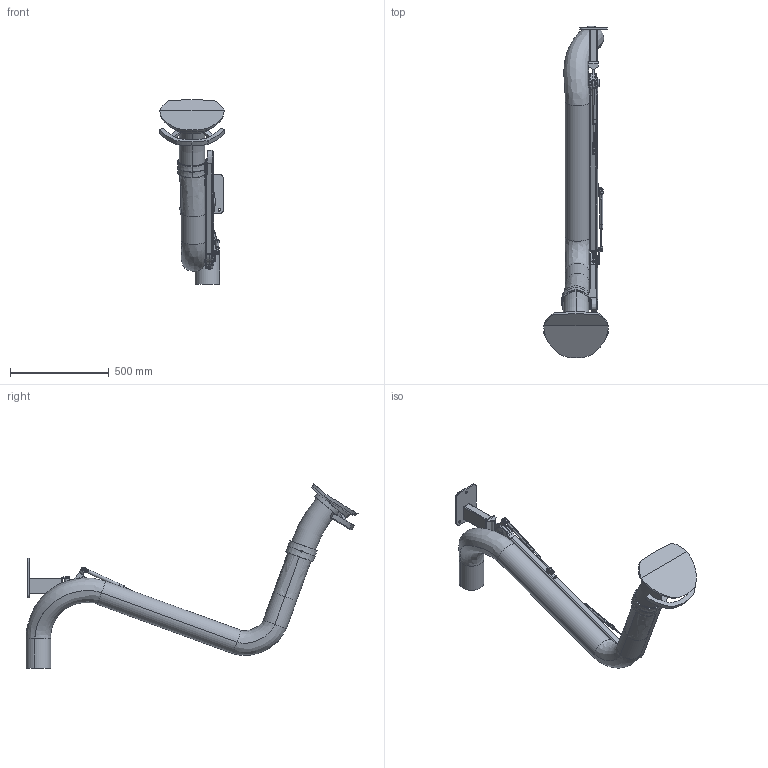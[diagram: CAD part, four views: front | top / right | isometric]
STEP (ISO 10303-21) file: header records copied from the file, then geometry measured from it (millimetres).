
FILE_DESCRIPTION((''),'2;1');
FILE_NAME('PR2000-125_135816','2017-12-20T',('Tomas Bellgran'),(''),'CREO PARAMETRIC BY PTC INC, 2016130','CREO PARAMETRIC BY PTC INC, 2016130','');
FILE_SCHEMA(('AUTOMOTIVE_DESIGN { 1 0 10303 214 1 1 1 1 }'));
Length unit declared in the file: millimetre
Products named in the file (43): 100-6300-01; 100-6300-02; 100-6300-04; 100-6300; 102680; 100-5506_L_LIGHT; 100-5506_R_LIGHT; 100-5506; 100-5404-L_LIGHT; 100-5404-R_LIGHT; 100-5404; 100-5914; 100-5913; 100-5915; 122223; 102678; 100-5512-L_LIGHT; 100-512-R_LIGHT; 100-5512; 122220; 102715; 100-5911; 100-5518; 100-6305-2; 100-6305-1; 100-6305; 134111; 100-5721_LIGHT; 100-5822_LIGHT; 100-5862A_LIGHT; 100-5865A_LIGHT; 126055_AF2; 100-6341-125; 137252; 135583; STAB_K4-D4; 130367; 102118-REF; 135587; 130370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
Assembly tree (46 placements, depth 5):
  PR2000-125_135816
    100-6300
      100-6300-01
      100-6300-02
      100-6300-04
    134111
      122223
        102680
        100-5506
          100-5506_L_LIGHT
          100-5506_R_LIGHT
        100-5404
          100-5404-L_LIGHT
          100-5404-R_LIGHT
        100-5915  x2
          100-5914
          100-5913
      122220
        102678
        100-5512
          100-5512-L_LIGHT
          100-512-R_LIGHT
      100-5518
        102715
        100-5911
      100-6305
        100-6305-2
        100-6305-1
        100-5911
    100-5721_LIGHT
    100-6341-125
      100-5822_LIGHT
      100-5862A_LIGHT
      100-5865A_LIGHT
      126055_AF2
    137252
    130367
      135583
      STAB_K4-D4
    102118-REF
    130370
      135587
      STAB_K4-D4
    102845-REF
      GAS_SPRING_ROD_STABILUS
      STAB_K4-D4
Bounding box: 328.82 x 1684.28 x 936.22 mm (x, y, z)
Volume: 7912506.4 mm3; surface area: 2748812.6 mm2
Topology: 34 solids, 35 shells, 844 faces, 2036 edges, 1259 vertices
Faces by surface type: cylinder 273, plane 270, cone 118, bspline 78, torus 75, sphere 26, extrusion 4
Entity records: 42298 total; most frequent: CARTESIAN_POINT 10779, DIRECTION 3754, ORIENTED_EDGE 3530, EDGE_CURVE 1765, PROPERTY_DEFINITION 1698, REPRESENTATION 1670, PROPERTY_DEFINITION_REPRESENTATION 1670, AXIS2_PLACEMENT_3D 1511
